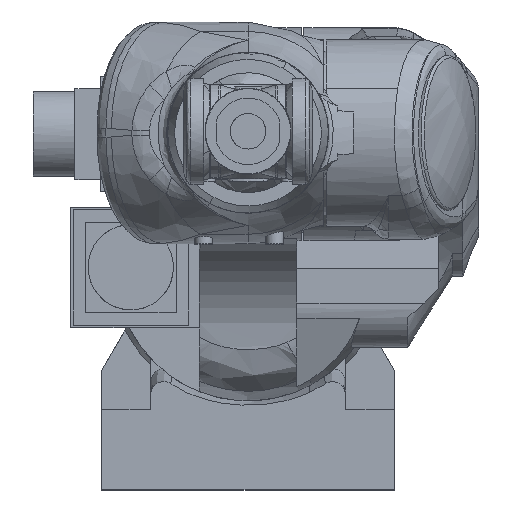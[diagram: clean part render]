
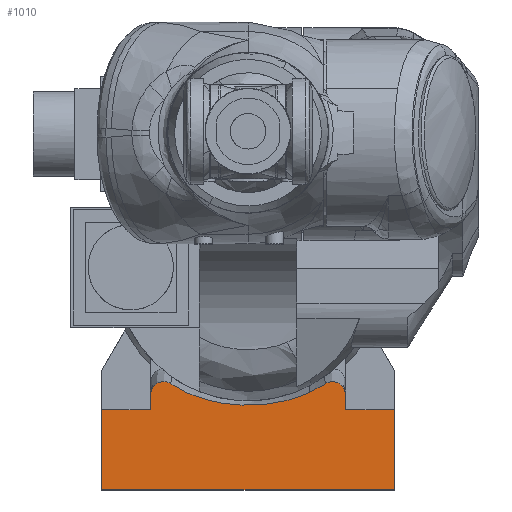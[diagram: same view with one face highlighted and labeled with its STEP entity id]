
A CAD part, top view. The second image highlights one B-rep face of the part: STEP entity #1010.
In plain terms, the highlighted planar face has unit normal (0, 0, 1).
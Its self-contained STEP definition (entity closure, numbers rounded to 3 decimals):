
#231=CARTESIAN_POINT('Vertex',(-165.,-250.,187.)) ;
#234=CARTESIAN_POINT('Line Origine',(-165.,-205.,187.)) ;
#238=CARTESIAN_POINT('Vertex',(-165.,-160.,187.)) ;
#278=CARTESIAN_POINT('Vertex',(165.,-250.,187.)) ;
#281=CARTESIAN_POINT('Line Origine',(0.,-250.,187.)) ;
#316=CARTESIAN_POINT('Vertex',(165.,-160.,187.)) ;
#319=CARTESIAN_POINT('Line Origine',(165.,-205.,187.)) ;
#881=CARTESIAN_POINT('Line Origine',(-137.5,-160.,187.)) ;
#885=CARTESIAN_POINT('Vertex',(-110.,-160.,187.)) ;
#900=CARTESIAN_POINT('Axis2P3D Location',(-165.,-205.,187.)) ;
#905=CARTESIAN_POINT('Line Origine',(137.5,-160.,187.)) ;
#909=CARTESIAN_POINT('Vertex',(110.,-160.,187.)) ;
#912=CARTESIAN_POINT('Line Origine',(110.,-151.825,187.)) ;
#916=CARTESIAN_POINT('Vertex',(110.,-143.65,187.)) ;
#920=CARTESIAN_POINT('Control Point',(86.83,-130.792,187.)) ;
#921=CARTESIAN_POINT('Control Point',(88.081,-129.962,187.)) ;
#922=CARTESIAN_POINT('Control Point',(89.437,-129.286,187.)) ;
#923=CARTESIAN_POINT('Control Point',(90.877,-128.787,187.)) ;
#924=CARTESIAN_POINT('Control Point',(93.849,-128.17,187.)) ;
#925=CARTESIAN_POINT('Control Point',(96.883,-128.321,187.)) ;
#926=CARTESIAN_POINT('Control Point',(98.378,-128.593,187.)) ;
#927=CARTESIAN_POINT('Control Point',(101.287,-129.518,187.)) ;
#928=CARTESIAN_POINT('Control Point',(103.865,-131.137,187.)) ;
#929=CARTESIAN_POINT('Control Point',(105.05,-132.112,187.)) ;
#930=CARTESIAN_POINT('Control Point',(107.169,-134.358,187.)) ;
#931=CARTESIAN_POINT('Control Point',(108.666,-137.047,187.)) ;
#932=CARTESIAN_POINT('Control Point',(109.247,-138.492,187.)) ;
#933=CARTESIAN_POINT('Control Point',(109.755,-140.408,187.)) ;
#934=CARTESIAN_POINT('Control Point',(109.956,-142.364,187.)) ;
#935=CARTESIAN_POINT('Control Point',(109.985,-142.793,187.)) ;
#936=CARTESIAN_POINT('Control Point',(110.,-143.221,187.)) ;
#937=CARTESIAN_POINT('Control Point',(110.,-143.65,187.)) ;
#938=CARTESIAN_POINT('Vertex',(86.83,-130.792,187.)) ;
#942=CARTESIAN_POINT('Control Point',(69.712,-140.352,187.)) ;
#943=CARTESIAN_POINT('Control Point',(73.279,-138.696,187.)) ;
#944=CARTESIAN_POINT('Control Point',(76.781,-136.913,187.)) ;
#945=CARTESIAN_POINT('Control Point',(80.212,-135.001,187.)) ;
#946=CARTESIAN_POINT('Control Point',(83.564,-132.96,187.)) ;
#947=CARTESIAN_POINT('Control Point',(86.83,-130.792,187.)) ;
#948=CARTESIAN_POINT('Vertex',(69.712,-140.352,187.)) ;
#952=CARTESIAN_POINT('Control Point',(-86.83,-130.792,187.)) ;
#953=CARTESIAN_POINT('Control Point',(-78.153,-136.553,187.)) ;
#954=CARTESIAN_POINT('Control Point',(-68.862,-141.421,187.)) ;
#955=CARTESIAN_POINT('Control Point',(-59.091,-145.348,187.)) ;
#956=CARTESIAN_POINT('Control Point',(-40.852,-150.902,187.)) ;
#957=CARTESIAN_POINT('Control Point',(-21.941,-153.816,187.)) ;
#958=CARTESIAN_POINT('Control Point',(-13.406,-154.619,187.)) ;
#959=CARTESIAN_POINT('Control Point',(8.418,-155.429,187.)) ;
#960=CARTESIAN_POINT('Control Point',(30.169,-153.076,187.)) ;
#961=CARTESIAN_POINT('Control Point',(43.204,-150.468,187.)) ;
#962=CARTESIAN_POINT('Control Point',(56.254,-146.423,187.)) ;
#963=CARTESIAN_POINT('Control Point',(68.575,-140.875,187.)) ;
#964=CARTESIAN_POINT('Control Point',(68.955,-140.702,187.)) ;
#965=CARTESIAN_POINT('Control Point',(69.334,-140.528,187.)) ;
#966=CARTESIAN_POINT('Control Point',(69.712,-140.352,187.)) ;
#967=CARTESIAN_POINT('Vertex',(-86.83,-130.792,187.)) ;
#971=CARTESIAN_POINT('Control Point',(-110.,-143.65,187.)) ;
#972=CARTESIAN_POINT('Control Point',(-110.,-142.105,187.)) ;
#973=CARTESIAN_POINT('Control Point',(-109.81,-140.562,187.)) ;
#974=CARTESIAN_POINT('Control Point',(-109.429,-139.047,187.)) ;
#975=CARTESIAN_POINT('Control Point',(-108.31,-136.169,187.)) ;
#976=CARTESIAN_POINT('Control Point',(-106.515,-133.645,187.)) ;
#977=CARTESIAN_POINT('Control Point',(-105.473,-132.51,187.)) ;
#978=CARTESIAN_POINT('Control Point',(-103.141,-130.543,187.)) ;
#979=CARTESIAN_POINT('Control Point',(-100.383,-129.216,187.)) ;
#980=CARTESIAN_POINT('Control Point',(-98.938,-128.735,187.)) ;
#981=CARTESIAN_POINT('Control Point',(-95.958,-128.155,187.)) ;
#982=CARTESIAN_POINT('Control Point',(-92.927,-128.348,187.)) ;
#983=CARTESIAN_POINT('Control Point',(-91.433,-128.638,187.)) ;
#984=CARTESIAN_POINT('Control Point',(-89.596,-129.248,187.)) ;
#985=CARTESIAN_POINT('Control Point',(-87.896,-130.136,187.)) ;
#986=CARTESIAN_POINT('Control Point',(-87.532,-130.343,187.)) ;
#987=CARTESIAN_POINT('Control Point',(-87.177,-130.561,187.)) ;
#988=CARTESIAN_POINT('Control Point',(-86.83,-130.792,187.)) ;
#989=CARTESIAN_POINT('Vertex',(-110.,-143.65,187.)) ;
#992=CARTESIAN_POINT('Line Origine',(-110.,-151.825,187.)) ;
#235=DIRECTION('Vector Direction',(0.,-1.,0.)) ;
#282=DIRECTION('Vector Direction',(1.,0.,0.)) ;
#320=DIRECTION('Vector Direction',(0.,1.,0.)) ;
#882=DIRECTION('Vector Direction',(-1.,0.,0.)) ;
#901=DIRECTION('Axis2P3D Direction',(0.,0.,1.)) ;
#902=DIRECTION('Axis2P3D XDirection',(1.,0.,0.)) ;
#906=DIRECTION('Vector Direction',(1.,0.,0.)) ;
#913=DIRECTION('Vector Direction',(0.,-1.,0.)) ;
#993=DIRECTION('Vector Direction',(0.,1.,0.)) ;
#903=AXIS2_PLACEMENT_3D('Plane Axis2P3D',#900,#901,#902) ;
#998=ORIENTED_EDGE('',*,*,#240,.T.) ;
#999=ORIENTED_EDGE('',*,*,#285,.T.) ;
#1000=ORIENTED_EDGE('',*,*,#323,.F.) ;
#1001=ORIENTED_EDGE('',*,*,#911,.T.) ;
#1002=ORIENTED_EDGE('',*,*,#918,.T.) ;
#1003=ORIENTED_EDGE('',*,*,#940,.T.) ;
#1004=ORIENTED_EDGE('',*,*,#950,.F.) ;
#1005=ORIENTED_EDGE('',*,*,#969,.F.) ;
#1006=ORIENTED_EDGE('',*,*,#991,.T.) ;
#1007=ORIENTED_EDGE('',*,*,#996,.T.) ;
#1008=ORIENTED_EDGE('',*,*,#887,.T.) ;
#236=VECTOR('Line Direction',#235,1.) ;
#283=VECTOR('Line Direction',#282,1.) ;
#321=VECTOR('Line Direction',#320,1.) ;
#883=VECTOR('Line Direction',#882,1.) ;
#907=VECTOR('Line Direction',#906,1.) ;
#914=VECTOR('Line Direction',#913,1.) ;
#994=VECTOR('Line Direction',#993,1.) ;
#1010=ADVANCED_FACE('\X2\FF8EFF9EFF83FF9EFF68FF70\X0\.2',(#1009),#904,.T.) ;
#919=B_SPLINE_CURVE_WITH_KNOTS('',5,(#920,#921,#922,#923,#924,#925,#926,#927,#928,#929,#930,#931,#932,#933,#934,#935,#936,#937),.UNSPECIFIED.,.F.,.U.,(6,3,3,3,3,6),(0.,10.616,21.2,31.954,42.942,46.003),.UNSPECIFIED.) ;
#941=B_SPLINE_CURVE_WITH_KNOTS('',5,(#942,#943,#944,#945,#946,#947),.UNSPECIFIED.,.F.,.U.,(6,6),(0.,27.761),.UNSPECIFIED.) ;
#951=B_SPLINE_CURVE_WITH_KNOTS('',5,(#952,#953,#954,#955,#956,#957,#958,#959,#960,#961,#962,#963,#964,#965,#966),.UNSPECIFIED.,.F.,.U.,(6,3,3,3,6),(0.,74.424,134.655,227.866,230.838),.UNSPECIFIED.) ;
#970=B_SPLINE_CURVE_WITH_KNOTS('',5,(#971,#972,#973,#974,#975,#976,#977,#978,#979,#980,#981,#982,#983,#984,#985,#986,#987,#988),.UNSPECIFIED.,.F.,.U.,(6,3,3,3,3,6),(0.,11.035,21.854,32.466,43.052,46.),.UNSPECIFIED.) ;
#240=EDGE_CURVE('',#239,#232,#237,.T.) ;
#285=EDGE_CURVE('',#232,#279,#284,.T.) ;
#323=EDGE_CURVE('',#317,#279,#322,.F.) ;
#887=EDGE_CURVE('',#886,#239,#884,.T.) ;
#911=EDGE_CURVE('',#317,#910,#908,.F.) ;
#918=EDGE_CURVE('',#910,#917,#915,.F.) ;
#940=EDGE_CURVE('',#917,#939,#919,.F.) ;
#950=EDGE_CURVE('',#949,#939,#941,.T.) ;
#969=EDGE_CURVE('',#968,#949,#951,.T.) ;
#991=EDGE_CURVE('',#968,#990,#970,.F.) ;
#996=EDGE_CURVE('',#990,#886,#995,.F.) ;
#997=EDGE_LOOP('',(#998,#999,#1000,#1001,#1002,#1003,#1004,#1005,#1006,#1007,#1008)) ;
#1009=FACE_OUTER_BOUND('',#997,.T.) ;
#237=LINE('Line',#234,#236) ;
#284=LINE('Line',#281,#283) ;
#322=LINE('Line',#319,#321) ;
#884=LINE('Line',#881,#883) ;
#908=LINE('Line',#905,#907) ;
#915=LINE('Line',#912,#914) ;
#995=LINE('Line',#992,#994) ;
#904=PLANE('',#903) ;
#232=VERTEX_POINT('',#231) ;
#239=VERTEX_POINT('',#238) ;
#279=VERTEX_POINT('',#278) ;
#317=VERTEX_POINT('',#316) ;
#886=VERTEX_POINT('',#885) ;
#910=VERTEX_POINT('',#909) ;
#917=VERTEX_POINT('',#916) ;
#939=VERTEX_POINT('',#938) ;
#949=VERTEX_POINT('',#948) ;
#968=VERTEX_POINT('',#967) ;
#990=VERTEX_POINT('',#989) ;
